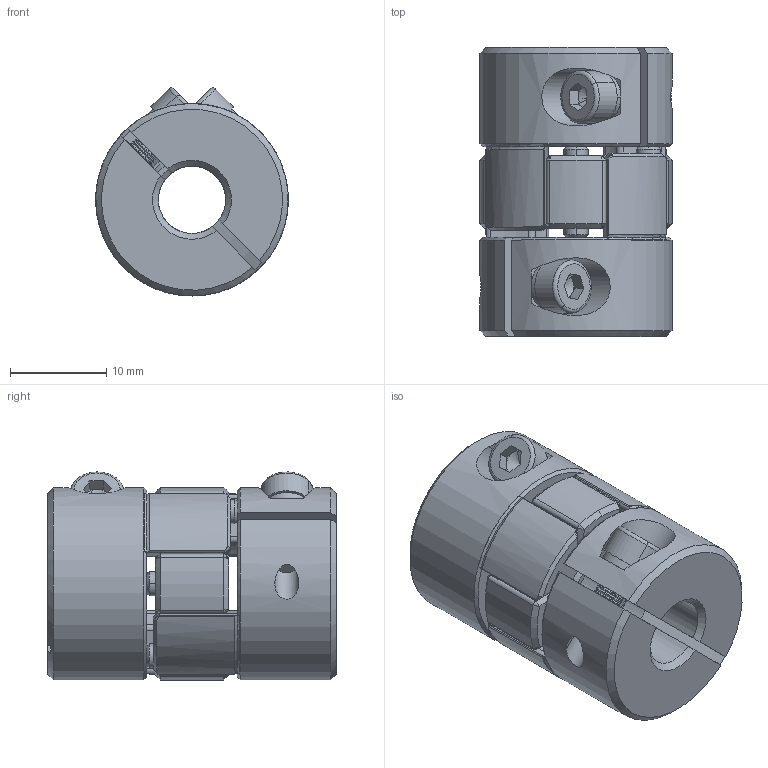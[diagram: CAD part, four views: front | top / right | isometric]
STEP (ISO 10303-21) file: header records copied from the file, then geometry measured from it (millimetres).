
FILE_DESCRIPTION (( 'STEP AP203' ), '1' );
FILE_NAME ('LF-B-D20L30-7-7.STEP', '2021-10-27T02:52:54', ( '' ), ( '' ), 'SwSTEP 2.0', 'SolidWorks 2018', '' );
FILE_SCHEMA (( 'CONFIG_CONTROL_DESIGN' ));
Length unit declared in the file: millimetre
Products named in the file (1): LF-B-D20L30-7-7
Bounding box: 20 x 30 x 21.62 mm (x, y, z)
Volume: 7544.4 mm3; surface area: 4877.1 mm2
Topology: 1 solids, 1 shells, 518 faces, 1253 edges, 691 vertices
Faces by surface type: cone 252, cylinder 192, plane 62, torus 12
Entity records: 15022 total; most frequent: CARTESIAN_POINT 2902, DIRECTION 2742, ORIENTED_EDGE 2426, EDGE_CURVE 1213, AXIS2_PLACEMENT_3D 1107, VERTEX_POINT 691, CIRCLE 588, EDGE_LOOP 546
